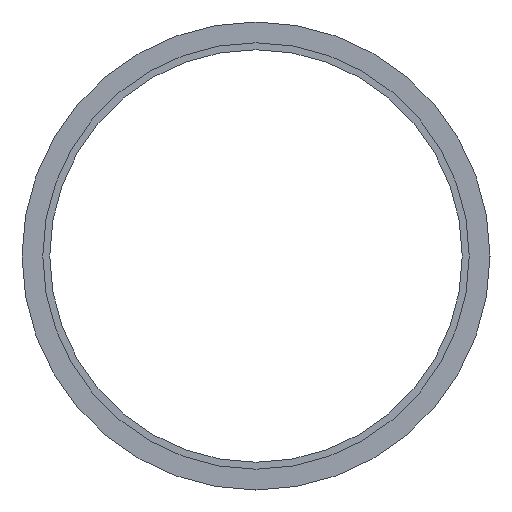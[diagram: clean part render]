
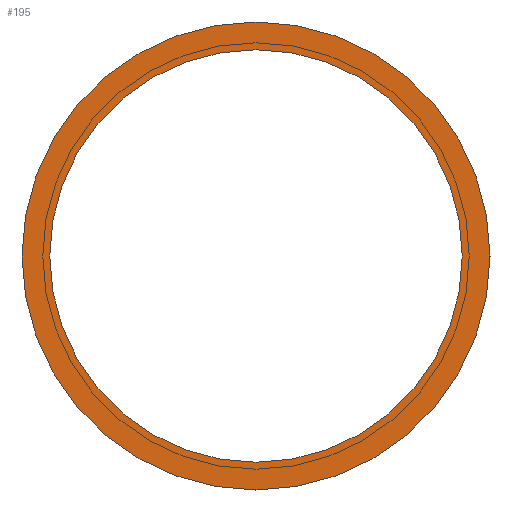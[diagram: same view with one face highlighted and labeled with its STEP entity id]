
A CAD part, left-side view. The second image highlights one B-rep face of the part: STEP entity #195.
In plain terms, the highlighted planar face has unit normal (-1, 0, 0).
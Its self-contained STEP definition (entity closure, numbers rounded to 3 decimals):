
#84=CARTESIAN_POINT('',(-31.881,64.317,59.5));
#85=VERTEX_POINT('',#84);
#86=CARTESIAN_POINT('',(-31.881,64.317,0.0));
#87=DIRECTION('',(1.0,0.0,0.0));
#88=DIRECTION('',(0.0,0.0,-1.0));
#89=AXIS2_PLACEMENT_3D('',#86,#87,#88);
#90=CIRCLE('',#89,59.5);
#91=EDGE_CURVE('',#85,#85,#90,.T.);
#169=CARTESIAN_POINT('',(-31.881,-3.183,0.0));
#170=VERTEX_POINT('',#169);
#171=CARTESIAN_POINT('',(-31.881,64.317,0.0));
#172=DIRECTION('',(-1.0,0.0,0.0));
#173=DIRECTION('',(0.0,-1.0,0.0));
#174=AXIS2_PLACEMENT_3D('',#171,#172,#173);
#175=CIRCLE('',#174,67.5);
#176=EDGE_CURVE('',#170,#170,#175,.T.);
#184=CARTESIAN_POINT('',(-31.881,30.567,0.0));
#185=DIRECTION('',(-1.0,0.0,0.0));
#186=DIRECTION('',(0.0,0.0,1.0));
#187=AXIS2_PLACEMENT_3D('',#184,#185,#186);
#188=PLANE('',#187);
#189=ORIENTED_EDGE('',*,*,#176,.T.);
#190=EDGE_LOOP('',(#189));
#191=FACE_OUTER_BOUND('',#190,.T.);
#192=ORIENTED_EDGE('',*,*,#91,.T.);
#193=EDGE_LOOP('',(#192));
#194=FACE_BOUND('',#193,.T.);
#195=ADVANCED_FACE('',(#191,#194),#188,.T.);
